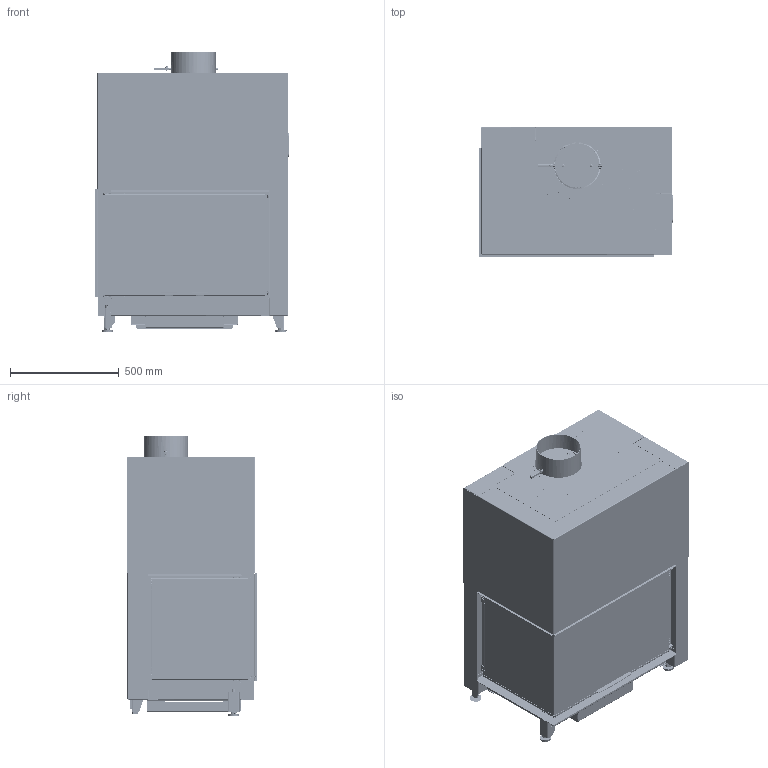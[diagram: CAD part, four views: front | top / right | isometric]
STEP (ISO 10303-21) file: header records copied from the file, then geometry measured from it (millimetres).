
FILE_DESCRIPTION(/* description */ (''),/* implementation_level */ '2;1');
FILE_NAME(/* name */ 'C:\ADSK_DM_WS\CAD_3D\03 Geraete\RII 50x80x50\Zeichnungen\RII_50x80x50_Links_mit_Mantel_Gen2_2022-03213.stp',/* time_stamp */ '2022-08-04T09:55:00+02:00',/* author */ ('TIS'),/* organization */ (''),/* preprocessor_version */ 'ST-DEVELOPER v18.1',/* originating_system */ 'Autodesk Inventor 2022',/* authorisation */ '');
FILE_SCHEMA (('AUTOMOTIVE_DESIGN { 1 0 10303 214 3 1 1 }'));
Products named in the file (8): 2022-03213; 2022-03211; 2022-03209; 2022-03208; 2022-03207; 2022-03206; 2022-03205; 2022-03204
Assembly tree (7 placements, depth 2):
  2022-03213
    2022-03211
    2022-03209
    2022-03208
    2022-03207
    2022-03206
    2022-03205
    2022-03204
Bounding box: 888.9 x 596.5 x 1288.56 mm (x, y, z)
Volume: 51969809 mm3; surface area: 20607451.1 mm2
Topology: 20 solids, 31 shells, 9415 faces, 25303 edges, 15806 vertices
Faces by surface type: plane 5550, cylinder 3397, bspline 242, cone 165, torus 53, sphere 8
Full cylindrical faces by diameter (mm): 4 x6, 4.5 x4, 4.8 x6, 6 x3, 7.4 x6, 7.9 x1, 8 x8, 9 x3, 9.5 x6, 10 x3, 11.192 x3, 11.4 x6, 12 x2, 16 x14, 30 x4, 163 x1, 333 x1, 339 x1
Entity records: 312274 total; most frequent: CARTESIAN_POINT 62903, ORIENTED_EDGE 50554, DIRECTION 50424, EDGE_CURVE 25330, AXIS2_PLACEMENT_3D 16992, LINE 16440, VECTOR 16440, VERTEX_POINT 15812
